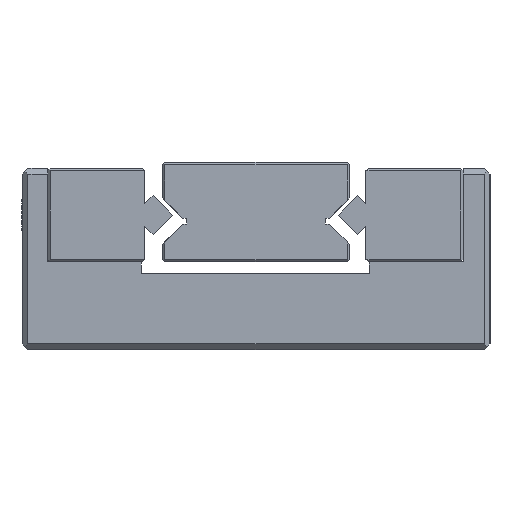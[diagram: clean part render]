
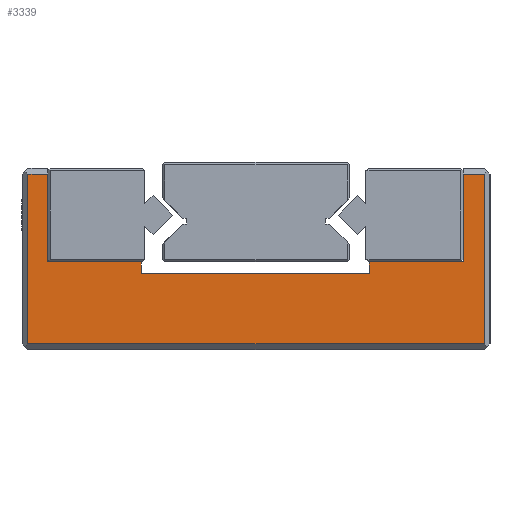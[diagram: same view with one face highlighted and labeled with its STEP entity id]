
A CAD part, left-side view. The second image highlights one B-rep face of the part: STEP entity #3339.
In plain terms, the highlighted planar face has unit normal (-1, 0, 0).
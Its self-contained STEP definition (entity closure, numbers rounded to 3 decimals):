
#441=DIRECTION('',(0.,-1.,0.));
#442=VECTOR('',#441,1.8);
#443=CARTESIAN_POINT('',(-77.5,-17.7,15.));
#444=LINE('',#443,#442);
#445=DIRECTION('',(0.,0.,-1.));
#446=VECTOR('',#445,14.5);
#447=CARTESIAN_POINT('',(-77.5,-19.5,15.));
#448=LINE('',#447,#446);
#449=DIRECTION('',(0.,1.,0.));
#450=VECTOR('',#449,39.);
#451=CARTESIAN_POINT('',(-77.5,-19.5,0.5));
#452=LINE('',#451,#450);
#453=DIRECTION('',(0.,0.,-1.));
#454=VECTOR('',#453,14.5);
#455=CARTESIAN_POINT('',(-77.5,19.5,15.));
#456=LINE('',#455,#454);
#457=DIRECTION('',(0.,-1.,0.));
#458=VECTOR('',#457,1.7);
#459=CARTESIAN_POINT('',(-77.5,19.5,15.));
#460=LINE('',#459,#458);
#461=DIRECTION('',(0.,0.,-1.));
#462=VECTOR('',#461,7.5);
#463=CARTESIAN_POINT('',(-77.5,17.8,15.));
#464=LINE('',#463,#462);
#465=DIRECTION('',(0.,-1.,0.));
#466=VECTOR('',#465,8.);
#467=CARTESIAN_POINT('',(-77.5,17.8,7.5));
#468=LINE('',#467,#466);
#469=DIRECTION('',(0.,0.,-1.));
#470=VECTOR('',#469,1.);
#471=CARTESIAN_POINT('',(-77.5,9.8,7.5));
#472=LINE('',#471,#470);
#473=DIRECTION('',(0.,-1.,0.));
#474=VECTOR('',#473,19.5);
#475=CARTESIAN_POINT('',(-77.5,9.8,6.5));
#476=LINE('',#475,#474);
#477=DIRECTION('',(0.,0.,1.));
#478=VECTOR('',#477,1.);
#479=CARTESIAN_POINT('',(-77.5,-9.7,6.5));
#480=LINE('',#479,#478);
#481=DIRECTION('',(0.,-1.,0.));
#482=VECTOR('',#481,8.);
#483=CARTESIAN_POINT('',(-77.5,-9.7,7.5));
#484=LINE('',#483,#482);
#485=DIRECTION('',(0.,0.,-1.));
#486=VECTOR('',#485,7.5);
#487=CARTESIAN_POINT('',(-77.5,-17.7,15.));
#488=LINE('',#487,#486);
#2271=CARTESIAN_POINT('',(-77.5,-9.7,7.5));
#2272=CARTESIAN_POINT('',(-77.5,-17.7,7.5));
#2273=VERTEX_POINT('',#2271);
#2274=VERTEX_POINT('',#2272);
#2279=CARTESIAN_POINT('',(-77.5,17.8,7.5));
#2280=CARTESIAN_POINT('',(-77.5,9.8,7.5));
#2281=VERTEX_POINT('',#2279);
#2282=VERTEX_POINT('',#2280);
#2283=CARTESIAN_POINT('',(-77.5,9.8,6.5));
#2284=VERTEX_POINT('',#2283);
#2285=CARTESIAN_POINT('',(-77.5,-9.7,6.5));
#2286=VERTEX_POINT('',#2285);
#2415=CARTESIAN_POINT('',(-77.5,-17.7,15.));
#2417=VERTEX_POINT('',#2415);
#2421=CARTESIAN_POINT('',(-77.5,-19.5,15.));
#2422=VERTEX_POINT('',#2421);
#2427=CARTESIAN_POINT('',(-77.5,-19.5,0.5));
#2428=VERTEX_POINT('',#2427);
#2444=CARTESIAN_POINT('',(-77.5,17.8,15.));
#2446=VERTEX_POINT('',#2444);
#2447=CARTESIAN_POINT('',(-77.5,19.5,15.));
#2448=VERTEX_POINT('',#2447);
#2467=CARTESIAN_POINT('',(-77.5,19.5,0.5));
#2468=VERTEX_POINT('',#2467);
#3310=CARTESIAN_POINT('',(-77.5,20.,0.));
#3311=DIRECTION('',(-1.,0.,0.));
#3312=DIRECTION('',(0.,-1.,0.));
#3313=AXIS2_PLACEMENT_3D('',#3310,#3311,#3312);
#3314=PLANE('',#3313);
#3316=ORIENTED_EDGE('',*,*,#3315,.T.);
#3318=ORIENTED_EDGE('',*,*,#3317,.T.);
#3320=ORIENTED_EDGE('',*,*,#3319,.T.);
#3322=ORIENTED_EDGE('',*,*,#3321,.F.);
#3323=ORIENTED_EDGE('',*,*,#3299,.T.);
#3324=ORIENTED_EDGE('',*,*,#3146,.T.);
#3326=ORIENTED_EDGE('',*,*,#3325,.T.);
#3328=ORIENTED_EDGE('',*,*,#3327,.T.);
#3330=ORIENTED_EDGE('',*,*,#3329,.T.);
#3332=ORIENTED_EDGE('',*,*,#3331,.T.);
#3334=ORIENTED_EDGE('',*,*,#3333,.T.);
#3336=ORIENTED_EDGE('',*,*,#3335,.F.);
#3337=EDGE_LOOP('',(#3316,#3318,#3320,#3322,#3323,#3324,#3326,#3328,#3330,#3332,
#3334,#3336));
#3338=FACE_OUTER_BOUND('',#3337,.F.);
#3146=EDGE_CURVE('',#2446,#2281,#464,.T.);
#3299=EDGE_CURVE('',#2448,#2446,#460,.T.);
#3315=EDGE_CURVE('',#2417,#2422,#444,.T.);
#3317=EDGE_CURVE('',#2422,#2428,#448,.T.);
#3319=EDGE_CURVE('',#2428,#2468,#452,.T.);
#3321=EDGE_CURVE('',#2448,#2468,#456,.T.);
#3325=EDGE_CURVE('',#2281,#2282,#468,.T.);
#3327=EDGE_CURVE('',#2282,#2284,#472,.T.);
#3329=EDGE_CURVE('',#2284,#2286,#476,.T.);
#3331=EDGE_CURVE('',#2286,#2273,#480,.T.);
#3333=EDGE_CURVE('',#2273,#2274,#484,.T.);
#3335=EDGE_CURVE('',#2417,#2274,#488,.T.);
#3339=ADVANCED_FACE('',(#3338),#3314,.T.);
